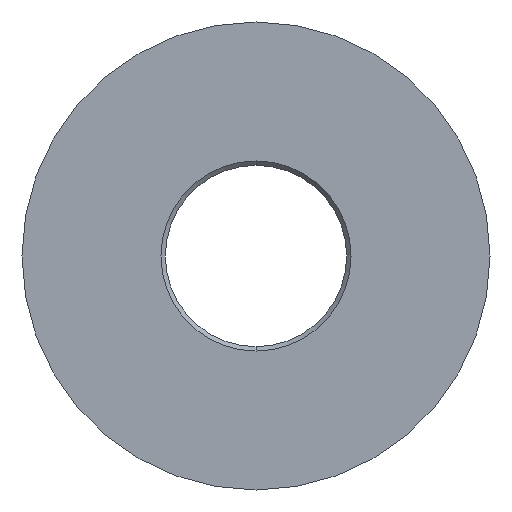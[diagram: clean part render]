
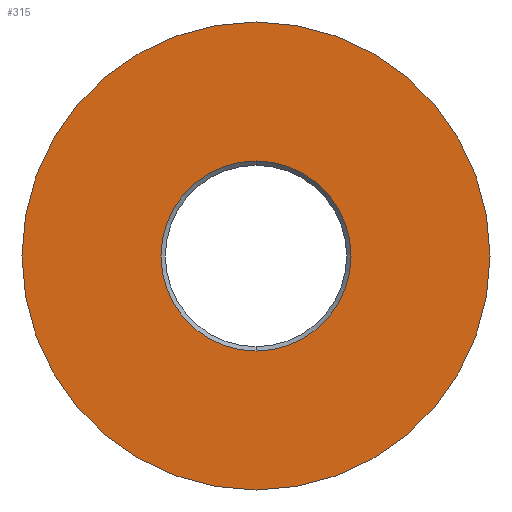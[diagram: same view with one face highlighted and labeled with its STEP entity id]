
A CAD part, front view. The second image highlights one B-rep face of the part: STEP entity #315.
In plain terms, the highlighted planar face has unit normal (0, -1, 0).
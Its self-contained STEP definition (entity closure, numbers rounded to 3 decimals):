
#6 = AXIS2_PLACEMENT_3D ( 'NONE', #22, #72, #84 ) ;
#14 = CIRCLE ( 'NONE', #361, 8. ) ;
#15 = DIRECTION ( 'NONE',  ( 0., 0., -1. ) ) ;
#22 = CARTESIAN_POINT ( 'NONE',  ( -3.25, -5., 0. ) ) ;
#34 = ORIENTED_EDGE ( 'NONE', *, *, #70, .T. ) ;
#38 = CARTESIAN_POINT ( 'NONE',  ( 0., -5., 8. ) ) ;
#47 = FACE_BOUND ( 'NONE', #146, .T. ) ;
#61 = VERTEX_POINT ( 'NONE', #225 ) ;
#65 = AXIS2_PLACEMENT_3D ( 'NONE', #271, #181, #152 ) ;
#70 = EDGE_CURVE ( 'NONE', #241, #61, #111, .T. ) ;
#72 = DIRECTION ( 'NONE',  ( 0., 1., 0. ) ) ;
#84 = DIRECTION ( 'NONE',  ( 0., 0., 1. ) ) ;
#86 = EDGE_CURVE ( 'NONE', #147, #300, #265, .T. ) ;
#89 = FACE_OUTER_BOUND ( 'NONE', #230, .T. ) ;
#111 = CIRCLE ( 'NONE', #163, 8. ) ;
#114 = EDGE_CURVE ( 'NONE', #61, #241, #14, .T. ) ;
#115 = CIRCLE ( 'NONE', #312, 3.25 ) ;
#131 = EDGE_CURVE ( 'NONE', #300, #147, #115, .T. ) ;
#142 = DIRECTION ( 'NONE',  ( 0., 0., -1. ) ) ;
#146 = EDGE_LOOP ( 'NONE', ( #249, #330 ) ) ;
#147 = VERTEX_POINT ( 'NONE', #182 ) ;
#152 = DIRECTION ( 'NONE',  ( 0., 0., -1. ) ) ;
#163 = AXIS2_PLACEMENT_3D ( 'NONE', #266, #263, #15 ) ;
#174 = DIRECTION ( 'NONE',  ( 0., -1., 0. ) ) ;
#178 = CARTESIAN_POINT ( 'NONE',  ( 0., -5., 0. ) ) ;
#181 = DIRECTION ( 'NONE',  ( 0., -1., 0. ) ) ;
#182 = CARTESIAN_POINT ( 'NONE',  ( 0., -5., -3.25 ) ) ;
#189 = DIRECTION ( 'NONE',  ( 0., -1., 0. ) ) ;
#192 = PLANE ( 'NONE',  #6 ) ;
#197 = CARTESIAN_POINT ( 'NONE',  ( 0., -5., 0. ) ) ;
#225 = CARTESIAN_POINT ( 'NONE',  ( 0., -5., -8. ) ) ;
#230 = EDGE_LOOP ( 'NONE', ( #248, #34 ) ) ;
#234 = CARTESIAN_POINT ( 'NONE',  ( 0., -5., 3.25 ) ) ;
#235 = DIRECTION ( 'NONE',  ( 0., 0., -1. ) ) ;
#241 = VERTEX_POINT ( 'NONE', #38 ) ;
#248 = ORIENTED_EDGE ( 'NONE', *, *, #114, .T. ) ;
#249 = ORIENTED_EDGE ( 'NONE', *, *, #86, .F. ) ;
#263 = DIRECTION ( 'NONE',  ( 0., -1., 0. ) ) ;
#265 = CIRCLE ( 'NONE', #65, 3.25 ) ;
#266 = CARTESIAN_POINT ( 'NONE',  ( 0., -5., 0. ) ) ;
#271 = CARTESIAN_POINT ( 'NONE',  ( 0., -5., 0. ) ) ;
#300 = VERTEX_POINT ( 'NONE', #234 ) ;
#312 = AXIS2_PLACEMENT_3D ( 'NONE', #197, #174, #142 ) ;
#315 = ADVANCED_FACE ( 'NONE', ( #47, #89 ), #192, .F. ) ;
#330 = ORIENTED_EDGE ( 'NONE', *, *, #131, .F. ) ;
#361 = AXIS2_PLACEMENT_3D ( 'NONE', #178, #189, #235 ) ;
